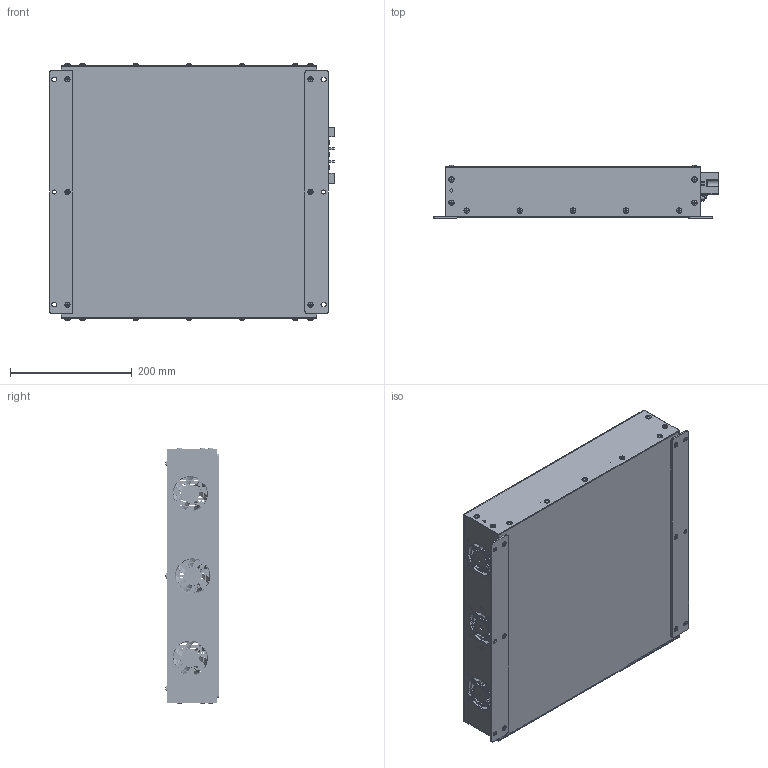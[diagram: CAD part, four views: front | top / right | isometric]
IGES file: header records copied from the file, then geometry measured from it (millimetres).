
Global section: file name: VW3COM; native system: Autodesk Inventor 2021; preprocessor: unknown; author: eunsol jang; date: 20220616.174432; units: inch
Bounding box: 467 x 87.92 x 421.84 mm (x, y, z)
Volume: 872523.6 mm3; surface area: 1114708.8 mm2
Topology: 13 solids, 13 shells, 3978 faces, 11964 edges, 8373 vertices
Faces by surface type: bspline 3978
